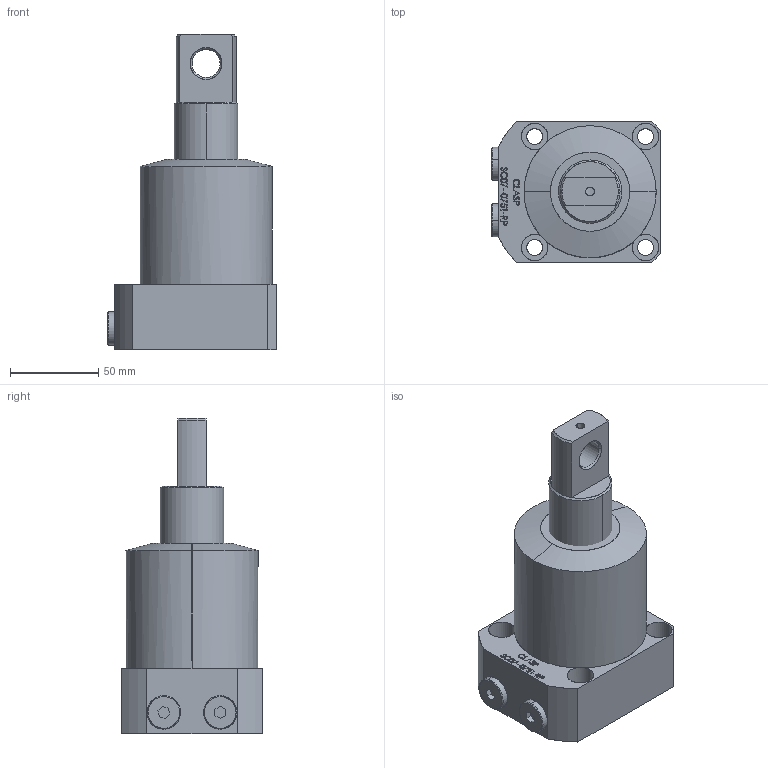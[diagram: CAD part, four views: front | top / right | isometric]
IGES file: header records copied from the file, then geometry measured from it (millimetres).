
Start section: SolidWorks IGES file using analytic representation for surfaces
Global section: file name: D:\karuppas\Clasp\3D model\SWING CYLINDER\Bottom Mounting swing cylinder-P type\SC08-0751-RP\SC08-0751-RP.IGS; native system: SolidWorks 2017; preprocessor: SolidWorks 2017; author: pc; date: 220708.223408; units: millimetre
Bounding box: 96 x 80 x 179 mm (x, y, z)
Surface area: 63020.9 mm2 (no closed solid volume)
Topology: 0 solids, 0 shells, 321 faces, 4813 edges, 4813 vertices
Faces by surface type: bspline 253, revolution 68
